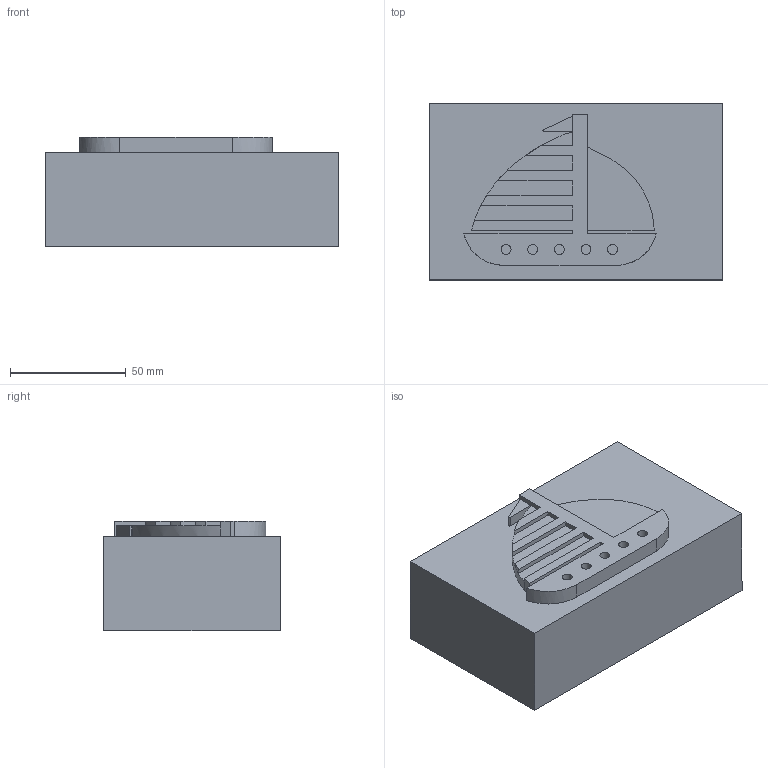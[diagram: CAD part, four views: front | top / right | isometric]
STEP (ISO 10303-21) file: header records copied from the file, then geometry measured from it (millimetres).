
FILE_DESCRIPTION(/* description */ (''),/* implementation_level */ '2;1');
FILE_NAME(/* name */ 'C:/Users/Franc/Documents/FabAcademy/Fabacademy2018/Fabfini/francois-auclair/file/mold/boat v5.step',/* time_stamp */ '2018-06-05T10:48:48-04:00',/* author */ ('francoisauclair'),/* organization */ (''),/* preprocessor_version */ 'ST-DEVELOPER v17',/* originating_system */ 'Autodesk Translation Framework v7.1.0.215',/* authorisation */ '');
FILE_SCHEMA (('AUTOMOTIVE_DESIGN { 1 0 10303 214 3 1 1 }'));
Length unit declared in the file: millimetre
Products named in the file (3): boat; boat_1; wax v1
Assembly tree (2 placements, depth 2):
  boat
    boat_1
    wax v1
Bounding box: 127 x 76.2 x 47.43 mm (x, y, z)
Volume: 414055.2 mm3; surface area: 39197.8 mm2
Topology: 1 solids, 1 shells, 51 faces, 128 edges, 85 vertices
Faces by surface type: plane 37, bspline 9, cylinder 5
Full cylindrical faces by diameter (mm): 4.286 x5
Entity records: 1629 total; most frequent: CARTESIAN_POINT 380, ORIENTED_EDGE 256, DIRECTION 213, EDGE_CURVE 128, LINE 99, VECTOR 99, VERTEX_POINT 85, EDGE_LOOP 57
